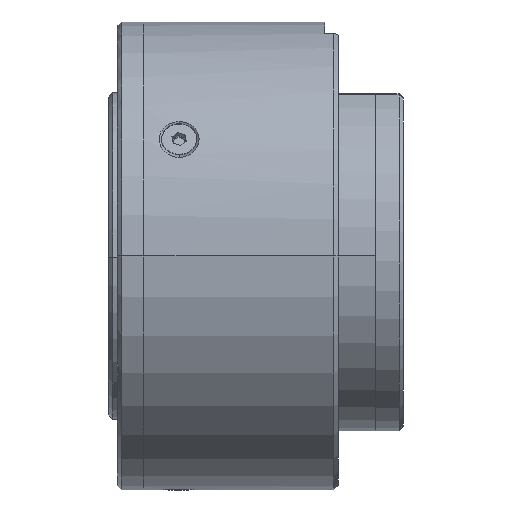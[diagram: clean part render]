
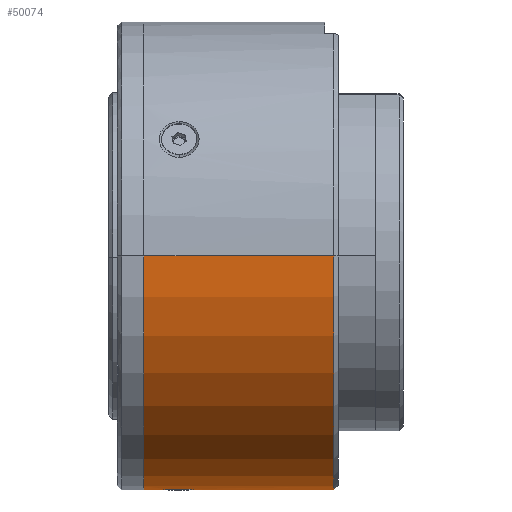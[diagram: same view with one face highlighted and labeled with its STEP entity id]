
A CAD part, front view. The second image highlights one B-rep face of the part: STEP entity #50074.
In plain terms, the highlighted cylindrical face has radius 26.5 mm (diameter 53 mm), a partial arc.
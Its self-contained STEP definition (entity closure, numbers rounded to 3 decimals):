
#120 = CARTESIAN_POINT ( 'NONE',  ( -13.02, -2.334, -26.397 ) ) ;
#396 = DIRECTION ( 'NONE',  ( 1., 0., 0. ) ) ;
#538 = CARTESIAN_POINT ( 'NONE',  ( -14.679, -1.169, -26.474 ) ) ;
#1697 = ORIENTED_EDGE ( 'NONE', *, *, #75888, .F. ) ;
#3947 = CARTESIAN_POINT ( 'NONE',  ( -12., -2.215, -26.407 ) ) ;
#4354 = CARTESIAN_POINT ( 'NONE',  ( -10.474, -0.152, -26.5 ) ) ;
#4441 = EDGE_LOOP ( 'NONE', ( #25081, #33200, #29114, #1697 ) ) ;
#4704 = VERTEX_POINT ( 'NONE', #41011 ) ;
#5140 = CARTESIAN_POINT ( 'NONE',  ( -11.725, 2.097, -26.417 ) ) ;
#5324 = AXIS2_PLACEMENT_3D ( 'NONE', #59482, #53388, #41219 ) ;
#5748 = CARTESIAN_POINT ( 'NONE',  ( -13.725, 2.097, -26.417 ) ) ;
#6138 = CARTESIAN_POINT ( 'NONE',  ( -14.108, -1.867, -26.435 ) ) ;
#6878 = FACE_OUTER_BOUND ( 'NONE', #4441, .T. ) ;
#6908 = LINE ( 'NONE', #31454, #28347 ) ;
#10777 = CARTESIAN_POINT ( 'NONE',  ( -11.597, 2.025, -26.423 ) ) ;
#10972 = CARTESIAN_POINT ( 'NONE',  ( -13.86, -2.039, -26.422 ) ) ;
#12070 = DIRECTION ( 'NONE',  ( 0., -1., 0. ) ) ;
#12495 = AXIS2_PLACEMENT_3D ( 'NONE', #56046, #396, #12070 ) ;
#12593 = B_SPLINE_CURVE_WITH_KNOTS ( 'NONE', 3,
 ( #77484, #22125, #48337, #46728, #3947, #28484, #77883, #22519, #34923, #42207, #29266, #59679, #4354, #28872, #41802, #35319, #54341, #41403, #17229, #72241, #16824, #10777, #5140, #60067, #29673, #53954, #35692, #60470 ),
 .UNSPECIFIED., .F., .F.,
 ( 4, 2, 2, 2, 2, 2, 2, 2, 2, 2, 2, 2, 2, 4 ),
 ( 0., 0.031, 0.063, 0.125, 0.188, 0.219, 0.25, 0.313, 0.344, 0.375, 0.406, 0.438, 0.469, 0.5 ),
 .UNSPECIFIED. ) ;
#13345 = DIRECTION ( 'NONE',  ( 0., -1., 0. ) ) ;
#16094 = DIRECTION ( 'NONE',  ( 1., 0., 0. ) ) ;
#16824 = CARTESIAN_POINT ( 'NONE',  ( -11.352, 1.856, -26.435 ) ) ;
#17033 = CARTESIAN_POINT ( 'NONE',  ( -12.727, 2.334, -26.397 ) ) ;
#17229 = CARTESIAN_POINT ( 'NONE',  ( -11.028, 1.541, -26.455 ) ) ;
#17428 = CARTESIAN_POINT ( 'NONE',  ( -14.516, 1.422, -26.462 ) ) ;
#17841 = VERTEX_POINT ( 'NONE', #44535 ) ;
#20330 = CARTESIAN_POINT ( 'NONE',  ( -16.725, 26.5, 0. ) ) ;
#22125 = CARTESIAN_POINT ( 'NONE',  ( -12.577, -2.334, -26.397 ) ) ;
#22197 = LINE ( 'NONE', #46811, #58844 ) ;
#22383 = VERTEX_POINT ( 'NONE', #53137 ) ;
#22519 = CARTESIAN_POINT ( 'NONE',  ( -10.924, -1.434, -26.462 ) ) ;
#22600 = EDGE_CURVE ( 'NONE', #22383, #57146, #28486, .T. ) ;
#24293 = DIRECTION ( 'NONE',  ( 1., 0., 0. ) ) ;
#25081 = ORIENTED_EDGE ( 'NONE', *, *, #39767, .T. ) ;
#26432 = AXIS2_PLACEMENT_3D ( 'NONE', #44783, #31420, #13345 ) ;
#27877 = CARTESIAN_POINT ( 'NONE',  ( -12.725, -2.334, -26.397 ) ) ;
#28347 = VECTOR ( 'NONE', #24293, 1000. ) ;
#28484 = CARTESIAN_POINT ( 'NONE',  ( -11.59, -2.039, -26.422 ) ) ;
#28486 = B_SPLINE_CURVE_WITH_KNOTS ( 'NONE', 3,
 ( #17033, #41622, #30673, #5748, #66373, #29879, #47760, #66761, #17428, #31067, #54950, #72464, #48952, #35512, #61463, #72850, #538, #73636, #55370, #6138, #10972, #54163, #120, #79689 ),
 .UNSPECIFIED., .F., .F.,
 ( 4, 2, 2, 2, 2, 2, 2, 2, 2, 2, 2, 4 ),
 ( 0.5, 0.563, 0.594, 0.625, 0.656, 0.688, 0.75, 0.813, 0.844, 0.875, 0.938, 1. ),
 .UNSPECIFIED. ) ;
#28872 = CARTESIAN_POINT ( 'NONE',  ( -10.474, 0.306, -26.5 ) ) ;
#29114 = ORIENTED_EDGE ( 'NONE', *, *, #36685, .T. ) ;
#29266 = CARTESIAN_POINT ( 'NONE',  ( -10.546, -0.607, -26.493 ) ) ;
#29673 = CARTESIAN_POINT ( 'NONE',  ( -12.141, 2.259, -26.404 ) ) ;
#29879 = CARTESIAN_POINT ( 'NONE',  ( -14.1, 1.854, -26.435 ) ) ;
#30673 = CARTESIAN_POINT ( 'NONE',  ( -13.315, 2.273, -26.403 ) ) ;
#31033 = FACE_BOUND ( 'NONE', #58223, .T. ) ;
#31067 = CARTESIAN_POINT ( 'NONE',  ( -14.68, 1.168, -26.475 ) ) ;
#31382 = VERTEX_POINT ( 'NONE', #20330 ) ;
#31420 = DIRECTION ( 'NONE',  ( 1., 0., 0. ) ) ;
#31454 = CARTESIAN_POINT ( 'NONE',  ( 4.675, -26.5, 0. ) ) ;
#32283 = CIRCLE ( 'NONE', #5324, 26.5 ) ;
#33200 = ORIENTED_EDGE ( 'NONE', *, *, #65737, .T. ) ;
#34923 = CARTESIAN_POINT ( 'NONE',  ( -10.758, -1.175, -26.475 ) ) ;
#35319 = CARTESIAN_POINT ( 'NONE',  ( -10.702, 1.035, -26.48 ) ) ;
#35512 = CARTESIAN_POINT ( 'NONE',  ( -14.976, -0.308, -26.5 ) ) ;
#35692 = CARTESIAN_POINT ( 'NONE',  ( -12.581, 2.334, -26.397 ) ) ;
#36685 = EDGE_CURVE ( 'NONE', #17841, #55388, #32283, .T. ) ;
#39767 = EDGE_CURVE ( 'NONE', #4704, #31382, #71886, .T. ) ;
#41011 = CARTESIAN_POINT ( 'NONE',  ( -16.725, -26.5, 0. ) ) ;
#41219 = DIRECTION ( 'NONE',  ( 0., 1., 0. ) ) ;
#41403 = CARTESIAN_POINT ( 'NONE',  ( -10.935, 1.424, -26.462 ) ) ;
#41622 = CARTESIAN_POINT ( 'NONE',  ( -13.02, 2.334, -26.397 ) ) ;
#41802 = CARTESIAN_POINT ( 'NONE',  ( -10.532, 0.61, -26.494 ) ) ;
#42207 = CARTESIAN_POINT ( 'NONE',  ( -10.588, -0.752, -26.49 ) ) ;
#44535 = CARTESIAN_POINT ( 'NONE',  ( 4.775, 26.5, 0. ) ) ;
#44690 = EDGE_CURVE ( 'NONE', #57146, #22383, #12593, .T. ) ;
#44783 = CARTESIAN_POINT ( 'NONE',  ( 4.675, 0., 0. ) ) ;
#46728 = CARTESIAN_POINT ( 'NONE',  ( -12.14, -2.259, -26.404 ) ) ;
#46811 = CARTESIAN_POINT ( 'NONE',  ( 4.675, 26.5, 0. ) ) ;
#47760 = CARTESIAN_POINT ( 'NONE',  ( -14.213, 1.758, -26.442 ) ) ;
#48337 = CARTESIAN_POINT ( 'NONE',  ( -12.429, -2.319, -26.398 ) ) ;
#48952 = CARTESIAN_POINT ( 'NONE',  ( -14.977, 0.305, -26.5 ) ) ;
#50074 = ADVANCED_FACE ( 'NONE', ( #31033, #6878 ), #56940, .T. ) ;
#53137 = CARTESIAN_POINT ( 'NONE',  ( -12.727, 2.334, -26.397 ) ) ;
#53388 = DIRECTION ( 'NONE',  ( -1., 0., 0. ) ) ;
#53954 = CARTESIAN_POINT ( 'NONE',  ( -12.432, 2.319, -26.398 ) ) ;
#54163 = CARTESIAN_POINT ( 'NONE',  ( -13.313, -2.274, -26.403 ) ) ;
#54341 = CARTESIAN_POINT ( 'NONE',  ( -10.771, 1.17, -26.474 ) ) ;
#54368 = ORIENTED_EDGE ( 'NONE', *, *, #22600, .T. ) ;
#54950 = CARTESIAN_POINT ( 'NONE',  ( -14.749, 1.035, -26.48 ) ) ;
#55370 = CARTESIAN_POINT ( 'NONE',  ( -14.42, -1.544, -26.455 ) ) ;
#55388 = VERTEX_POINT ( 'NONE', #73794 ) ;
#56046 = CARTESIAN_POINT ( 'NONE',  ( -16.725, 0., 0. ) ) ;
#56611 = ORIENTED_EDGE ( 'NONE', *, *, #44690, .T. ) ;
#56940 = CYLINDRICAL_SURFACE ( 'NONE', #26432, 26.5 ) ;
#57146 = VERTEX_POINT ( 'NONE', #27877 ) ;
#58223 = EDGE_LOOP ( 'NONE', ( #56611, #54368 ) ) ;
#58844 = VECTOR ( 'NONE', #16094, 1000. ) ;
#59482 = CARTESIAN_POINT ( 'NONE',  ( 4.775, 0., 0. ) ) ;
#59679 = CARTESIAN_POINT ( 'NONE',  ( -10.488, -0.306, -26.499 ) ) ;
#60067 = CARTESIAN_POINT ( 'NONE',  ( -11.999, 2.215, -26.407 ) ) ;
#60470 = CARTESIAN_POINT ( 'NONE',  ( -12.727, 2.334, -26.397 ) ) ;
#61463 = CARTESIAN_POINT ( 'NONE',  ( -14.917, -0.613, -26.494 ) ) ;
#65737 = EDGE_CURVE ( 'NONE', #31382, #17841, #22197, .T. ) ;
#66373 = CARTESIAN_POINT ( 'NONE',  ( -13.855, 2.024, -26.423 ) ) ;
#66761 = CARTESIAN_POINT ( 'NONE',  ( -14.422, 1.541, -26.455 ) ) ;
#71886 = CIRCLE ( 'NONE', #12495, 26.5 ) ;
#72241 = CARTESIAN_POINT ( 'NONE',  ( -11.237, 1.758, -26.442 ) ) ;
#72464 = CARTESIAN_POINT ( 'NONE',  ( -14.919, 0.609, -26.495 ) ) ;
#72850 = CARTESIAN_POINT ( 'NONE',  ( -14.748, -1.036, -26.48 ) ) ;
#73636 = CARTESIAN_POINT ( 'NONE',  ( -14.514, -1.425, -26.462 ) ) ;
#73794 = CARTESIAN_POINT ( 'NONE',  ( 4.775, -26.5, 0. ) ) ;
#75888 = EDGE_CURVE ( 'NONE', #4704, #55388, #6908, .T. ) ;
#77484 = CARTESIAN_POINT ( 'NONE',  ( -12.725, -2.334, -26.397 ) ) ;
#77883 = CARTESIAN_POINT ( 'NONE',  ( -11.342, -1.867, -26.435 ) ) ;
#79689 = CARTESIAN_POINT ( 'NONE',  ( -12.725, -2.334, -26.397 ) ) ;
